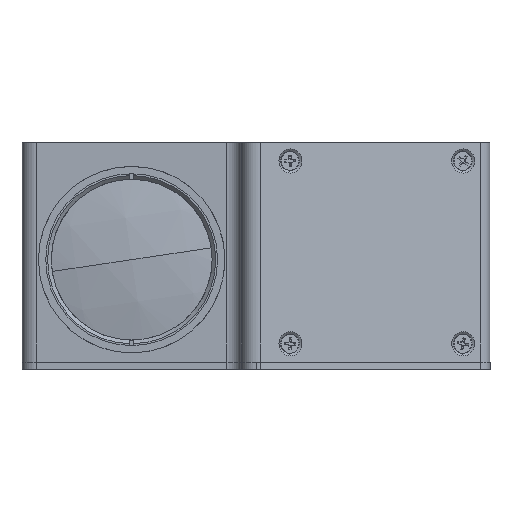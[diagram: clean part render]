
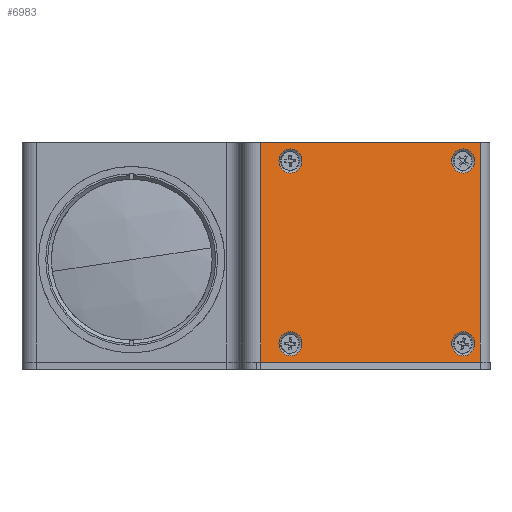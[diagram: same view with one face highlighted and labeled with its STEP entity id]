
A CAD part, left-side view. The second image highlights one B-rep face of the part: STEP entity #6983.
In plain terms, the highlighted planar face has unit normal (-0.946, -0.326, 0).
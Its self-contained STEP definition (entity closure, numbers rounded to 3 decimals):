
#204 = CARTESIAN_POINT ( 'NONE',  ( 54.439, -101.782, 32. ) ) ;
#337 = EDGE_CURVE ( 'NONE', #7844, #603, #1682, .T. ) ;
#406 = DIRECTION ( 'NONE',  ( -0.946, -0.326, 0. ) ) ;
#499 = CARTESIAN_POINT ( 'NONE',  ( 50.615, -90.677, -23. ) ) ;
#561 = AXIS2_PLACEMENT_3D ( 'NONE', #12232, #5376, #13371 ) ;
#603 = VERTEX_POINT ( 'NONE', #3755 ) ;
#666 = DIRECTION ( 'NONE',  ( 0., 0., 1. ) ) ;
#670 = ORIENTED_EDGE ( 'NONE', *, *, #14783, .F. ) ;
#905 = VECTOR ( 'NONE', #5921, 1000. ) ;
#974 = AXIS2_PLACEMENT_3D ( 'NONE', #499, #8564, #1643 ) ;
#1106 = AXIS2_PLACEMENT_3D ( 'NONE', #2731, #10751, #3875 ) ;
#1517 = CARTESIAN_POINT ( 'NONE',  ( 52.208, -95.302, -28. ) ) ;
#1560 = DIRECTION ( 'NONE',  ( 0., 0., 1. ) ) ;
#1643 = DIRECTION ( 'NONE',  ( 0., 0., 1. ) ) ;
#1645 = CARTESIAN_POINT ( 'NONE',  ( 31.554, -35.319, 2. ) ) ;
#1682 = CIRCLE ( 'NONE', #13529, 3.3 ) ;
#1728 = CARTESIAN_POINT ( 'NONE',  ( 34.337, -43.401, 27. ) ) ;
#2183 = VERTEX_POINT ( 'NONE', #7222 ) ;
#2204 = VERTEX_POINT ( 'NONE', #3818 ) ;
#2505 = FACE_BOUND ( 'NONE', #7703, .T. ) ;
#2731 = CARTESIAN_POINT ( 'NONE',  ( 34.337, -43.401, -23. ) ) ;
#2806 = VECTOR ( 'NONE', #12087, 1000. ) ;
#2880 = DIRECTION ( 'NONE',  ( 0., 0., 1. ) ) ;
#2921 = CARTESIAN_POINT ( 'NONE',  ( 31.554, -35.319, -28. ) ) ;
#3751 = CARTESIAN_POINT ( 'NONE',  ( 34.337, -43.401, -26.3 ) ) ;
#3755 = CARTESIAN_POINT ( 'NONE',  ( 50.615, -90.677, 30.3 ) ) ;
#3818 = CARTESIAN_POINT ( 'NONE',  ( 34.337, -43.401, 30.3 ) ) ;
#3875 = DIRECTION ( 'NONE',  ( 0., 0., 1. ) ) ;
#3966 = LINE ( 'NONE', #8497, #10095 ) ;
#4005 = ORIENTED_EDGE ( 'NONE', *, *, #8593, .F. ) ;
#4012 = CIRCLE ( 'NONE', #974, 3.3 ) ;
#4034 = CARTESIAN_POINT ( 'NONE',  ( 50.615, -90.677, 27. ) ) ;
#4088 = CARTESIAN_POINT ( 'NONE',  ( 54.439, -101.782, -28. ) ) ;
#4602 = EDGE_LOOP ( 'NONE', ( #670, #10656 ) ) ;
#4674 = VERTEX_POINT ( 'NONE', #1517 ) ;
#4834 = FACE_OUTER_BOUND ( 'NONE', #13762, .T. ) ;
#5185 = DIRECTION ( 'NONE',  ( 0., 0., 1. ) ) ;
#5259 = CARTESIAN_POINT ( 'NONE',  ( 50.615, -90.677, -23. ) ) ;
#5345 = ORIENTED_EDGE ( 'NONE', *, *, #337, .F. ) ;
#5376 = DIRECTION ( 'NONE',  ( -0.946, -0.326, 0. ) ) ;
#5427 = DIRECTION ( 'NONE',  ( -0.946, -0.326, 0. ) ) ;
#5798 = ORIENTED_EDGE ( 'NONE', *, *, #13588, .T. ) ;
#5842 = CARTESIAN_POINT ( 'NONE',  ( 52.208, -95.302, 32. ) ) ;
#5921 = DIRECTION ( 'NONE',  ( 0.326, -0.946, 0. ) ) ;
#6457 = DIRECTION ( 'NONE',  ( 0., 0., 1. ) ) ;
#6476 = EDGE_CURVE ( 'NONE', #4674, #14659, #3966, .T. ) ;
#6565 = CARTESIAN_POINT ( 'NONE',  ( 42.084, -65.9, 2. ) ) ;
#6635 = EDGE_CURVE ( 'NONE', #603, #7844, #14346, .T. ) ;
#6983 = ADVANCED_FACE ( 'NONE', ( #2505, #10933, #11297, #7954, #4834 ), #10031, .T. ) ;
#7047 = CARTESIAN_POINT ( 'NONE',  ( 34.337, -43.401, -19.7 ) ) ;
#7114 = ORIENTED_EDGE ( 'NONE', *, *, #13068, .F. ) ;
#7207 = ORIENTED_EDGE ( 'NONE', *, *, #6476, .T. ) ;
#7222 = CARTESIAN_POINT ( 'NONE',  ( 31.554, -35.319, 32. ) ) ;
#7251 = EDGE_CURVE ( 'NONE', #2183, #14659, #13073, .T. ) ;
#7303 = CARTESIAN_POINT ( 'NONE',  ( 34.337, -43.401, -23. ) ) ;
#7346 = EDGE_LOOP ( 'NONE', ( #4005, #7114 ) ) ;
#7361 = EDGE_CURVE ( 'NONE', #11524, #11469, #12369, .T. ) ;
#7587 = DIRECTION ( 'NONE',  ( -0.946, -0.326, 0. ) ) ;
#7703 = EDGE_LOOP ( 'NONE', ( #9869, #5345 ) ) ;
#7844 = VERTEX_POINT ( 'NONE', #10653 ) ;
#7954 = FACE_BOUND ( 'NONE', #7346, .T. ) ;
#8004 = AXIS2_PLACEMENT_3D ( 'NONE', #6565, #5427, #13440 ) ;
#8026 = VERTEX_POINT ( 'NONE', #10990 ) ;
#8347 = CARTESIAN_POINT ( 'NONE',  ( 50.615, -90.677, -19.7 ) ) ;
#8489 = DIRECTION ( 'NONE',  ( 0., 0., 1. ) ) ;
#8497 = CARTESIAN_POINT ( 'NONE',  ( 52.208, -95.302, 2. ) ) ;
#8564 = DIRECTION ( 'NONE',  ( -0.946, -0.326, 0. ) ) ;
#8567 = DIRECTION ( 'NONE',  ( 0., 0., -1. ) ) ;
#8593 = EDGE_CURVE ( 'NONE', #2204, #10382, #11419, .T. ) ;
#8792 = VECTOR ( 'NONE', #8567, 1000. ) ;
#9015 = AXIS2_PLACEMENT_3D ( 'NONE', #5259, #13272, #6457 ) ;
#9306 = AXIS2_PLACEMENT_3D ( 'NONE', #14370, #7587, #666 ) ;
#9445 = EDGE_LOOP ( 'NONE', ( #10112, #14296 ) ) ;
#9630 = CARTESIAN_POINT ( 'NONE',  ( 34.337, -43.401, 23.7 ) ) ;
#9772 = DIRECTION ( 'NONE',  ( -0.946, -0.326, 0. ) ) ;
#9869 = ORIENTED_EDGE ( 'NONE', *, *, #6635, .F. ) ;
#10031 = PLANE ( 'NONE',  #8004 ) ;
#10095 = VECTOR ( 'NONE', #1560, 1000. ) ;
#10112 = ORIENTED_EDGE ( 'NONE', *, *, #11931, .F. ) ;
#10303 = CIRCLE ( 'NONE', #9015, 3.3 ) ;
#10382 = VERTEX_POINT ( 'NONE', #9630 ) ;
#10457 = EDGE_CURVE ( 'NONE', #4674, #13067, #14630, .T. ) ;
#10653 = CARTESIAN_POINT ( 'NONE',  ( 50.615, -90.677, 23.7 ) ) ;
#10656 = ORIENTED_EDGE ( 'NONE', *, *, #7361, .F. ) ;
#10751 = DIRECTION ( 'NONE',  ( -0.946, -0.326, 0. ) ) ;
#10933 = FACE_BOUND ( 'NONE', #9445, .T. ) ;
#10990 = CARTESIAN_POINT ( 'NONE',  ( 50.615, -90.677, -26.3 ) ) ;
#11297 = FACE_BOUND ( 'NONE', #4602, .T. ) ;
#11402 = LINE ( 'NONE', #1645, #8792 ) ;
#11419 = CIRCLE ( 'NONE', #11592, 3.3 ) ;
#11469 = VERTEX_POINT ( 'NONE', #7047 ) ;
#11524 = VERTEX_POINT ( 'NONE', #3751 ) ;
#11592 = AXIS2_PLACEMENT_3D ( 'NONE', #1728, #9772, #2880 ) ;
#11676 = EDGE_CURVE ( 'NONE', #8026, #14722, #10303, .T. ) ;
#11931 = EDGE_CURVE ( 'NONE', #14722, #8026, #4012, .T. ) ;
#12040 = DIRECTION ( 'NONE',  ( -0.946, -0.326, 0. ) ) ;
#12087 = DIRECTION ( 'NONE',  ( -0.326, 0.946, 0. ) ) ;
#12139 = CIRCLE ( 'NONE', #9306, 3.3 ) ;
#12232 = CARTESIAN_POINT ( 'NONE',  ( 50.615, -90.677, 27. ) ) ;
#12254 = ORIENTED_EDGE ( 'NONE', *, *, #7251, .F. ) ;
#12261 = AXIS2_PLACEMENT_3D ( 'NONE', #7303, #406, #8489 ) ;
#12369 = CIRCLE ( 'NONE', #12261, 3.3 ) ;
#12781 = CIRCLE ( 'NONE', #1106, 3.3 ) ;
#13067 = VERTEX_POINT ( 'NONE', #2921 ) ;
#13068 = EDGE_CURVE ( 'NONE', #10382, #2204, #12139, .T. ) ;
#13073 = LINE ( 'NONE', #204, #905 ) ;
#13272 = DIRECTION ( 'NONE',  ( -0.946, -0.326, 0. ) ) ;
#13371 = DIRECTION ( 'NONE',  ( 0., 0., 1. ) ) ;
#13440 = DIRECTION ( 'NONE',  ( 0., 0., 1. ) ) ;
#13529 = AXIS2_PLACEMENT_3D ( 'NONE', #4034, #12040, #5185 ) ;
#13588 = EDGE_CURVE ( 'NONE', #2183, #13067, #11402, .T. ) ;
#13590 = ORIENTED_EDGE ( 'NONE', *, *, #10457, .F. ) ;
#13762 = EDGE_LOOP ( 'NONE', ( #13590, #7207, #12254, #5798 ) ) ;
#14296 = ORIENTED_EDGE ( 'NONE', *, *, #11676, .F. ) ;
#14346 = CIRCLE ( 'NONE', #561, 3.3 ) ;
#14370 = CARTESIAN_POINT ( 'NONE',  ( 34.337, -43.401, 27. ) ) ;
#14630 = LINE ( 'NONE', #4088, #2806 ) ;
#14659 = VERTEX_POINT ( 'NONE', #5842 ) ;
#14722 = VERTEX_POINT ( 'NONE', #8347 ) ;
#14783 = EDGE_CURVE ( 'NONE', #11469, #11524, #12781, .T. ) ;
